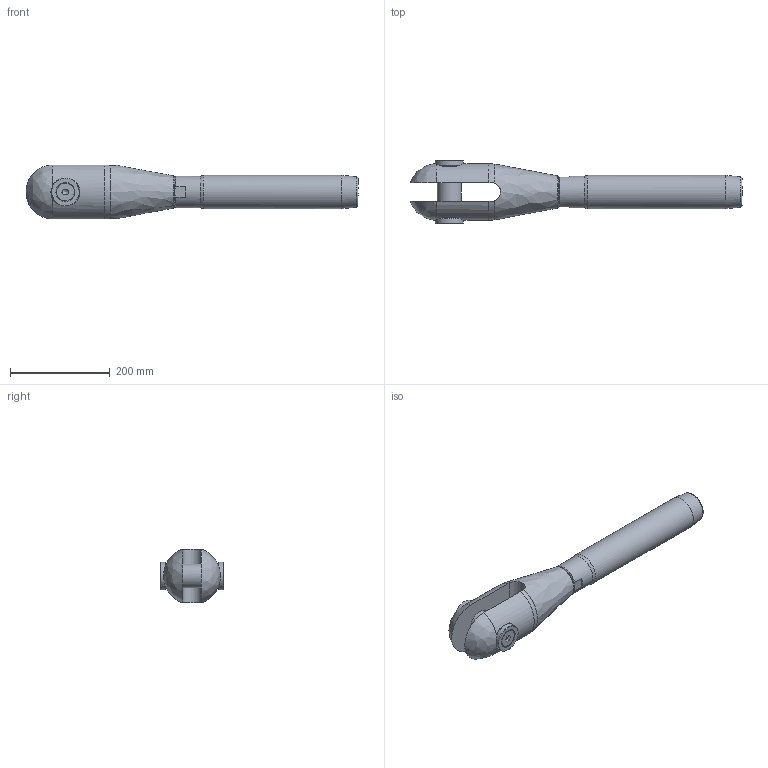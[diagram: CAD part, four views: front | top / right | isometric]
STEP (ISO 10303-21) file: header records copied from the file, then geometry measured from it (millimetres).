
FILE_DESCRIPTION(/* description */ (''),/* implementation_level */ '2;1');
FILE_NAME(/* name */ 'MAC-R 34_1,4418',/* time_stamp */ '2023-05-23T17:52:18+02:00',/* author */ (''),/* organization */ (''),/* preprocessor_version */ 'ST-DEVELOPER v16.5',/* originating_system */ 'Rhino 7.22',/* authorisation */ '');
FILE_SCHEMA (('CONFIG_CONTROL_DESIGN'));
Length unit declared in the file: millimetre
Products named in the file (1): Document
Bounding box: 664.4 x 125.45 x 107.83 mm (x, y, z)
Volume: 3002531 mm3; surface area: 283168.2 mm2
Topology: 7 solids, 7 shells, 87 faces, 244 edges, 170 vertices
Faces by surface type: plane 36, bspline 27, cylinder 24
Full cylindrical faces by diameter (mm): 17.294 x2, 20 x2, 21 x2, 35.4 x2, 48 x1, 48.752 x1, 50 x2, 52 x1, 56 x2, 63.5 x1, 66.8 x1
Entity records: 3527 total; most frequent: CARTESIAN_POINT 1975, ORIENTED_EDGE 478, EDGE_CURVE 239, VERTEX_POINT 170, EDGE_LOOP 99, B_SPLINE_CURVE_WITH_KNOTS 96, ADVANCED_FACE 87, FACE_OUTER_BOUND 87
